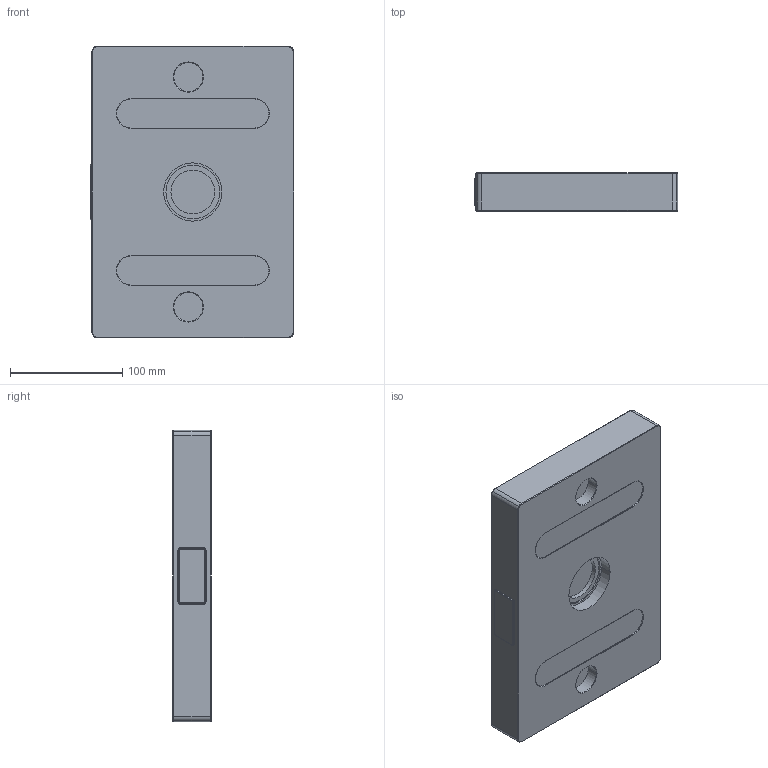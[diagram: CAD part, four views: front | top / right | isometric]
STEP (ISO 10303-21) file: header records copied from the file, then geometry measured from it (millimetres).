
FILE_DESCRIPTION (( 'STEP AP214' ), '1' );
FILE_NAME ('Pallet - QPS -100 - 180 x 260 x 34.step', '2025-05-03T15:57:43', ( 'tinckavdane@live.com' ), ( '' ), 'SwSTEP 2.0', 'SolidWorks 2025', '' );
FILE_SCHEMA (( 'AUTOMOTIVE_DESIGN' ));
Length unit declared in the file: millimetre
Products named in the file (5): Pallet - QPS -100 - 180 x 260 x 34.step; Pallet - QPS -100 - 180 x 260 x 34; eBom-FreeParts_2.step; D-RAZTEH-Logo_1.step; Pallet - QPS -100 - 180 x 260 x 34_1.step
Assembly tree (4 placements, depth 4):
  Pallet - QPS -100 - 180 x 260 x 34
    Pallet - QPS -100 - 180 x 260 x 34.step
      Pallet - QPS -100 - 180 x 260 x 34_1.step
        D-RAZTEH-Logo_1.step
      eBom-FreeParts_2.step
Bounding box: 181.5 x 34 x 260 mm (x, y, z)
Volume: 1544328.8 mm3; surface area: 129938.6 mm2
Topology: 2 solids, 2 shells, 101 faces, 226 edges, 136 vertices
Faces by surface type: cylinder 38, plane 35, cone 24, bspline 4
Entity records: 2948 total; most frequent: DIRECTION 542, CARTESIAN_POINT 504, ORIENTED_EDGE 452, EDGE_CURVE 226, AXIS2_PLACEMENT_3D 210, VERTEX_POINT 136, VECTOR 122, LINE 122
